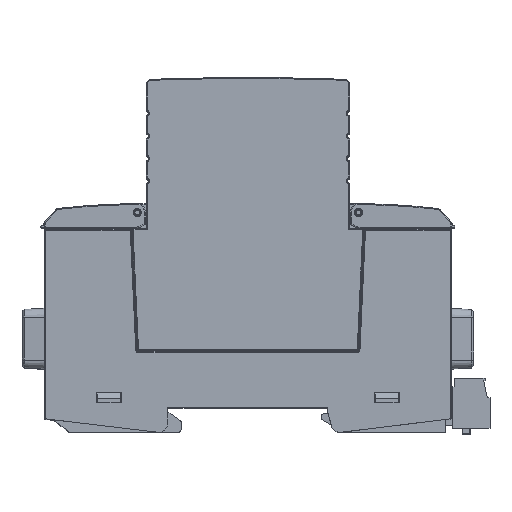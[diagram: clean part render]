
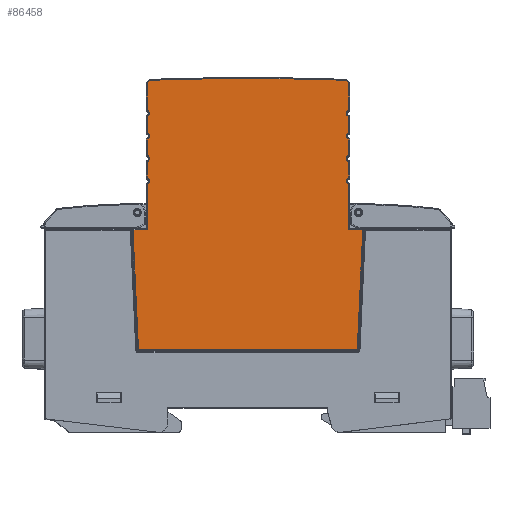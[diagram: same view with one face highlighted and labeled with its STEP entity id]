
A CAD part, top view. The second image highlights one B-rep face of the part: STEP entity #86458.
In plain terms, the highlighted planar face has unit normal (0, 0, 1) as drawn and (0, 0, -1) by its records, which use the part's own axes.
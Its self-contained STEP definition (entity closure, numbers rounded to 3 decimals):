
#3167=CIRCLE('',#93492,0.7);
#3185=CIRCLE('',#93518,599.8);
#3210=CIRCLE('',#93556,1.);
#3216=CIRCLE('',#93567,0.7);
#3227=CIRCLE('',#93587,0.7);
#3236=CIRCLE('',#93604,0.7);
#3279=CIRCLE('',#93719,0.3);
#3282=CIRCLE('',#93724,0.3);
#3319=CIRCLE('',#93876,0.7);
#3328=CIRCLE('',#93893,0.7);
#3339=CIRCLE('',#93913,0.7);
#3348=CIRCLE('',#93930,0.7);
#3358=CIRCLE('',#93947,1.);
#27039=ORIENTED_EDGE('',*,*,#39499,.T.);
#27040=ORIENTED_EDGE('',*,*,#39502,.F.);
#27041=ORIENTED_EDGE('',*,*,#39570,.F.);
#27042=ORIENTED_EDGE('',*,*,#39694,.F.);
#27043=ORIENTED_EDGE('',*,*,#39680,.F.);
#27044=ORIENTED_EDGE('',*,*,#39671,.F.);
#27045=ORIENTED_EDGE('',*,*,#39664,.F.);
#27046=ORIENTED_EDGE('',*,*,#39649,.F.);
#27047=ORIENTED_EDGE('',*,*,#39646,.F.);
#27048=ORIENTED_EDGE('',*,*,#39637,.F.);
#27049=ORIENTED_EDGE('',*,*,#39635,.F.);
#27050=ORIENTED_EDGE('',*,*,#39591,.F.);
#27051=ORIENTED_EDGE('',*,*,#40185,.F.);
#27052=ORIENTED_EDGE('',*,*,#40186,.F.);
#27053=ORIENTED_EDGE('',*,*,#40172,.F.);
#27054=ORIENTED_EDGE('',*,*,#40163,.F.);
#27055=ORIENTED_EDGE('',*,*,#40156,.F.);
#27056=ORIENTED_EDGE('',*,*,#40142,.F.);
#27057=ORIENTED_EDGE('',*,*,#40139,.F.);
#27058=ORIENTED_EDGE('',*,*,#40130,.F.);
#27059=ORIENTED_EDGE('',*,*,#40123,.F.);
#27060=ORIENTED_EDGE('',*,*,#39451,.F.);
#27061=ORIENTED_EDGE('',*,*,#39455,.T.);
#27062=ORIENTED_EDGE('',*,*,#39461,.T.);
#27063=ORIENTED_EDGE('',*,*,#39862,.T.);
#27064=ORIENTED_EDGE('',*,*,#39860,.T.);
#27065=ORIENTED_EDGE('',*,*,#39858,.T.);
#27066=ORIENTED_EDGE('',*,*,#40209,.T.);
#39451=EDGE_CURVE('',#48093,#48094,#58191,.T.);
#39455=EDGE_CURVE('',#48093,#48096,#58193,.T.);
#39461=EDGE_CURVE('',#48096,#48100,#58196,.T.);
#39499=EDGE_CURVE('',#48120,#48126,#58213,.T.);
#39502=EDGE_CURVE('',#48128,#48126,#58215,.T.);
#39570=EDGE_CURVE('',#48172,#48128,#3167,.T.);
#39591=EDGE_CURVE('',#48186,#48187,#3185,.T.);
#39635=EDGE_CURVE('',#48187,#48219,#3210,.T.);
#39637=EDGE_CURVE('',#48219,#48220,#58266,.T.);
#39646=EDGE_CURVE('',#48220,#48224,#3216,.T.);
#39649=EDGE_CURVE('',#48224,#48226,#58271,.T.);
#39664=EDGE_CURVE('',#48226,#48231,#3227,.T.);
#39671=EDGE_CURVE('',#48231,#48234,#58280,.T.);
#39680=EDGE_CURVE('',#48234,#48238,#3236,.T.);
#39694=EDGE_CURVE('',#48238,#48172,#58289,.T.);
#39858=EDGE_CURVE('',#48343,#48344,#3279,.T.);
#39860=EDGE_CURVE('',#48345,#48343,#58410,.T.);
#39862=EDGE_CURVE('',#48100,#48345,#3282,.T.);
#40123=EDGE_CURVE('',#48094,#48493,#3319,.T.);
#40130=EDGE_CURVE('',#48493,#48496,#58622,.T.);
#40139=EDGE_CURVE('',#48496,#48500,#3328,.T.);
#40142=EDGE_CURVE('',#48500,#48502,#58627,.T.);
#40156=EDGE_CURVE('',#48502,#48507,#3339,.T.);
#40163=EDGE_CURVE('',#48507,#48510,#58635,.T.);
#40172=EDGE_CURVE('',#48510,#48514,#3348,.T.);
#40185=EDGE_CURVE('',#48519,#48186,#3358,.T.);
#40186=EDGE_CURVE('',#48514,#48519,#58643,.T.);
#40209=EDGE_CURVE('',#48344,#48120,#58657,.T.);
#48093=VERTEX_POINT('',#147154);
#48094=VERTEX_POINT('',#147156);
#48096=VERTEX_POINT('',#147162);
#48100=VERTEX_POINT('',#147174);
#48120=VERTEX_POINT('',#147249);
#48126=VERTEX_POINT('',#147267);
#48128=VERTEX_POINT('',#147273);
#48172=VERTEX_POINT('',#147468);
#48186=VERTEX_POINT('',#147511);
#48187=VERTEX_POINT('',#147513);
#48219=VERTEX_POINT('',#147612);
#48220=VERTEX_POINT('',#147616);
#48224=VERTEX_POINT('',#147633);
#48226=VERTEX_POINT('',#147639);
#48231=VERTEX_POINT('',#147667);
#48234=VERTEX_POINT('',#147681);
#48238=VERTEX_POINT('',#147698);
#48343=VERTEX_POINT('',#148136);
#48344=VERTEX_POINT('',#148138);
#48345=VERTEX_POINT('',#148142);
#48493=VERTEX_POINT('',#148725);
#48496=VERTEX_POINT('',#148739);
#48500=VERTEX_POINT('',#148756);
#48502=VERTEX_POINT('',#148762);
#48507=VERTEX_POINT('',#148789);
#48510=VERTEX_POINT('',#148803);
#48514=VERTEX_POINT('',#148820);
#48519=VERTEX_POINT('',#148844);
#58191=LINE('',#147155,#68352);
#58193=LINE('',#147164,#68354);
#58196=LINE('',#147175,#68357);
#58213=LINE('',#147268,#68374);
#58215=LINE('',#147274,#68376);
#58266=LINE('',#147615,#68427);
#58271=LINE('',#147638,#68432);
#58280=LINE('',#147680,#68441);
#58289=LINE('',#147724,#68450);
#58410=LINE('',#148143,#68571);
#58622=LINE('',#148738,#68783);
#58627=LINE('',#148761,#68788);
#58635=LINE('',#148802,#68796);
#58643=LINE('',#148847,#68804);
#58657=LINE('',#148910,#68818);
#68352=VECTOR('',#114123,1000.);
#68354=VECTOR('',#114131,1000.);
#68357=VECTOR('',#114144,1000.);
#68374=VECTOR('',#114229,1000.);
#68376=VECTOR('',#114235,1000.);
#68427=VECTOR('',#114526,1000.);
#68432=VECTOR('',#114555,1000.);
#68441=VECTOR('',#114614,1000.);
#68450=VECTOR('',#114675,1000.);
#68571=VECTOR('',#114996,1000.);
#68783=VECTOR('',#115534,1000.);
#68788=VECTOR('',#115563,1000.);
#68796=VECTOR('',#115621,1000.);
#68804=VECTOR('',#115683,1000.);
#68818=VECTOR('',#115755,1000.);
#73741=EDGE_LOOP('',(#27039,#27040,#27041,#27042,#27043,#27044,#27045,#27046,
#27047,#27048,#27049,#27050,#27051,#27052,#27053,#27054,#27055,#27056,#27057,
#27058,#27059,#27060,#27061,#27062,#27063,#27064,#27065,#27066));
#78480=FACE_BOUND('',#73741,.T.);
#82044=PLANE('',#93978);
#86458=ADVANCED_FACE('',(#78480),#82044,.F.);
#93492=AXIS2_PLACEMENT_3D('',#147469,#114373,#114374);
#93518=AXIS2_PLACEMENT_3D('',#147512,#114428,#114429);
#93556=AXIS2_PLACEMENT_3D('',#147611,#114520,#114521);
#93567=AXIS2_PLACEMENT_3D('',#147632,#114547,#114548);
#93587=AXIS2_PLACEMENT_3D('',#147666,#114594,#114595);
#93604=AXIS2_PLACEMENT_3D('',#147697,#114635,#114636);
#93719=AXIS2_PLACEMENT_3D('',#148139,#114990,#114991);
#93724=AXIS2_PLACEMENT_3D('',#148146,#115001,#115002);
#93876=AXIS2_PLACEMENT_3D('',#148724,#115514,#115515);
#93893=AXIS2_PLACEMENT_3D('',#148755,#115555,#115556);
#93913=AXIS2_PLACEMENT_3D('',#148788,#115601,#115602);
#93930=AXIS2_PLACEMENT_3D('',#148819,#115642,#115643);
#93947=AXIS2_PLACEMENT_3D('',#148845,#115679,#115680);
#93978=AXIS2_PLACEMENT_3D('',#148911,#115756,#115757);
#114123=DIRECTION('',(0.,1.,0.));
#114131=DIRECTION('',(1.,0.,0.));
#114144=DIRECTION('',(-0.046,-0.999,0.));
#114229=DIRECTION('',(1.,0.,0.));
#114235=DIRECTION('',(0.,-1.,0.));
#114373=DIRECTION('',(0.,0.,-1.));
#114374=DIRECTION('',(0.286,0.958,0.));
#114428=DIRECTION('',(0.,0.,1.));
#114429=DIRECTION('',(0.036,0.999,0.));
#114520=DIRECTION('',(0.,0.,1.));
#114521=DIRECTION('',(-0.036,0.999,0.));
#114526=DIRECTION('',(0.,-1.,0.));
#114547=DIRECTION('',(0.,0.,-1.));
#114548=DIRECTION('',(0.286,0.958,0.));
#114555=DIRECTION('',(0.,-1.,0.));
#114594=DIRECTION('',(0.,0.,-1.));
#114595=DIRECTION('',(0.286,0.958,0.));
#114614=DIRECTION('',(0.,-1.,0.));
#114635=DIRECTION('',(0.,0.,-1.));
#114636=DIRECTION('',(0.286,0.958,0.));
#114675=DIRECTION('',(0.,-1.,0.));
#114990=DIRECTION('',(0.,0.,-1.));
#114991=DIRECTION('',(0.,-1.,0.));
#114996=DIRECTION('',(-1.,0.,0.));
#115001=DIRECTION('',(0.,0.,-1.));
#115002=DIRECTION('',(0.999,-0.046,0.));
#115514=DIRECTION('',(0.,0.,-1.));
#115515=DIRECTION('',(-0.286,-0.958,0.));
#115534=DIRECTION('',(0.,1.,0.));
#115555=DIRECTION('',(0.,0.,-1.));
#115556=DIRECTION('',(-0.286,-0.958,0.));
#115563=DIRECTION('',(0.,1.,0.));
#115601=DIRECTION('',(0.,0.,-1.));
#115602=DIRECTION('',(-0.286,-0.958,0.));
#115621=DIRECTION('',(0.,1.,0.));
#115642=DIRECTION('',(0.,0.,-1.));
#115643=DIRECTION('',(-0.286,-0.958,0.));
#115679=DIRECTION('',(0.,0.,1.));
#115680=DIRECTION('',(1.,0.,0.));
#115683=DIRECTION('',(0.,1.,0.));
#115755=DIRECTION('',(-0.046,0.999,0.));
#115756=DIRECTION('',(0.,0.,1.));
#115757=DIRECTION('',(1.,0.,0.));
#147154=CARTESIAN_POINT('',(22.3,25.72,-8.9));
#147155=CARTESIAN_POINT('',(22.3,25.72,-8.9));
#147156=CARTESIAN_POINT('',(22.3,35.829,-8.9));
#147162=CARTESIAN_POINT('',(25.433,25.72,-8.9));
#147164=CARTESIAN_POINT('',(22.3,25.72,-8.9));
#147174=CARTESIAN_POINT('',(24.222,-0.514,-8.9));
#147175=CARTESIAN_POINT('',(25.433,25.72,-8.9));
#147249=CARTESIAN_POINT('',(-25.433,25.72,-8.9));
#147267=CARTESIAN_POINT('',(-22.3,25.72,-8.9));
#147268=CARTESIAN_POINT('',(-25.433,25.72,-8.9));
#147273=CARTESIAN_POINT('',(-22.3,35.829,-8.9));
#147274=CARTESIAN_POINT('',(-22.3,35.829,-8.9));
#147468=CARTESIAN_POINT('',(-22.3,37.171,-8.9));
#147469=CARTESIAN_POINT('',(-22.5,36.5,-8.9));
#147511=CARTESIAN_POINT('',(21.336,58.842,-8.9));
#147512=CARTESIAN_POINT('',(0.,-540.578,-8.9));
#147513=CARTESIAN_POINT('',(-21.336,58.842,-8.9));
#147611=CARTESIAN_POINT('',(-21.3,57.843,-8.9));
#147612=CARTESIAN_POINT('',(-22.3,57.843,-8.9));
#147615=CARTESIAN_POINT('',(-22.3,57.843,-8.9));
#147616=CARTESIAN_POINT('',(-22.3,52.171,-8.9));
#147632=CARTESIAN_POINT('',(-22.5,51.5,-8.9));
#147633=CARTESIAN_POINT('',(-22.3,50.829,-8.9));
#147638=CARTESIAN_POINT('',(-22.3,50.829,-8.9));
#147639=CARTESIAN_POINT('',(-22.3,47.171,-8.9));
#147666=CARTESIAN_POINT('',(-22.5,46.5,-8.9));
#147667=CARTESIAN_POINT('',(-22.3,45.829,-8.9));
#147680=CARTESIAN_POINT('',(-22.3,45.829,-8.9));
#147681=CARTESIAN_POINT('',(-22.3,42.171,-8.9));
#147697=CARTESIAN_POINT('',(-22.5,41.5,-8.9));
#147698=CARTESIAN_POINT('',(-22.3,40.829,-8.9));
#147724=CARTESIAN_POINT('',(-22.3,40.829,-8.9));
#148136=CARTESIAN_POINT('',(-23.923,-0.8,-8.9));
#148138=CARTESIAN_POINT('',(-24.222,-0.514,-8.9));
#148139=CARTESIAN_POINT('',(-23.923,-0.5,-8.9));
#148142=CARTESIAN_POINT('',(23.923,-0.8,-8.9));
#148143=CARTESIAN_POINT('',(23.923,-0.8,-8.9));
#148146=CARTESIAN_POINT('',(23.923,-0.5,-8.9));
#148724=CARTESIAN_POINT('',(22.5,36.5,-8.9));
#148725=CARTESIAN_POINT('',(22.3,37.171,-8.9));
#148738=CARTESIAN_POINT('',(22.3,37.171,-8.9));
#148739=CARTESIAN_POINT('',(22.3,40.829,-8.9));
#148755=CARTESIAN_POINT('',(22.5,41.5,-8.9));
#148756=CARTESIAN_POINT('',(22.3,42.171,-8.9));
#148761=CARTESIAN_POINT('',(22.3,42.171,-8.9));
#148762=CARTESIAN_POINT('',(22.3,45.829,-8.9));
#148788=CARTESIAN_POINT('',(22.5,46.5,-8.9));
#148789=CARTESIAN_POINT('',(22.3,47.171,-8.9));
#148802=CARTESIAN_POINT('',(22.3,47.171,-8.9));
#148803=CARTESIAN_POINT('',(22.3,50.829,-8.9));
#148819=CARTESIAN_POINT('',(22.5,51.5,-8.9));
#148820=CARTESIAN_POINT('',(22.3,52.171,-8.9));
#148844=CARTESIAN_POINT('',(22.3,57.843,-8.9));
#148845=CARTESIAN_POINT('',(21.3,57.843,-8.9));
#148847=CARTESIAN_POINT('',(22.3,52.171,-8.9));
#148910=CARTESIAN_POINT('',(-24.222,-0.514,-8.9));
#148911=CARTESIAN_POINT('',(0.,0.,-8.9));
